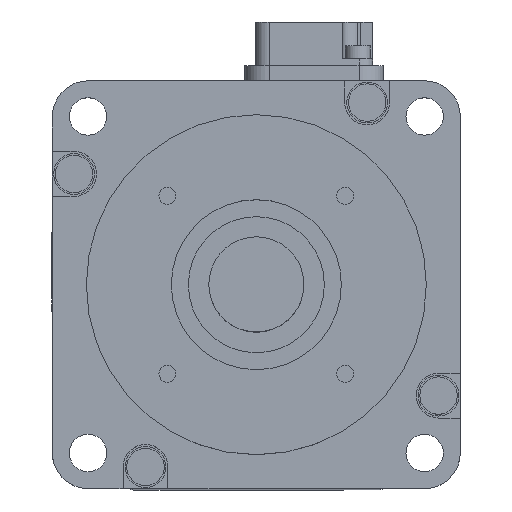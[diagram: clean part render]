
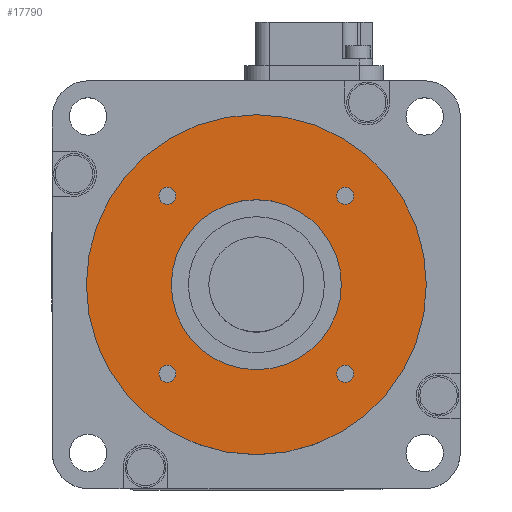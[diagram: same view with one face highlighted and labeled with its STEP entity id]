
A CAD part, top view. The second image highlights one B-rep face of the part: STEP entity #17790.
In plain terms, the highlighted planar face has unit normal (0, 0, 1).
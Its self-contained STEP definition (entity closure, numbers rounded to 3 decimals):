
#4791=CARTESIAN_POINT('',(0.,0.,55.25));
#4792=DIRECTION('',(0.,0.,1.));
#4793=DIRECTION('',(1.,0.,0.));
#4794=AXIS2_PLACEMENT_3D('',#4791,#4792,#4793);
#4796=CARTESIAN_POINT('',(0.,0.,55.25));
#4797=DIRECTION('',(0.,0.,1.));
#4798=DIRECTION('',(-1.,0.,0.));
#4799=AXIS2_PLACEMENT_3D('',#4796,#4797,#4798);
#4801=CARTESIAN_POINT('',(0.,0.,55.25));
#4802=DIRECTION('',(0.,0.,-1.));
#4803=DIRECTION('',(1.,0.,0.));
#4804=AXIS2_PLACEMENT_3D('',#4801,#4802,#4803);
#4806=CARTESIAN_POINT('',(0.,0.,55.25));
#4807=DIRECTION('',(0.,0.,-1.));
#4808=DIRECTION('',(-1.,0.,0.));
#4809=AXIS2_PLACEMENT_3D('',#4806,#4807,#4808);
#4811=CARTESIAN_POINT('',(13.081,13.081,55.25));
#4812=DIRECTION('',(0.,0.,-1.));
#4813=DIRECTION('',(-1.,0.,0.));
#4814=AXIS2_PLACEMENT_3D('',#4811,#4812,#4813);
#4816=CARTESIAN_POINT('',(13.081,13.081,55.25));
#4817=DIRECTION('',(0.,0.,-1.));
#4818=DIRECTION('',(1.,0.,0.));
#4819=AXIS2_PLACEMENT_3D('',#4816,#4817,#4818);
#4821=CARTESIAN_POINT('',(-13.081,13.081,55.25));
#4822=DIRECTION('',(0.,0.,-1.));
#4823=DIRECTION('',(0.,-1.,0.));
#4824=AXIS2_PLACEMENT_3D('',#4821,#4822,#4823);
#4826=CARTESIAN_POINT('',(-13.081,13.081,55.25));
#4827=DIRECTION('',(0.,0.,-1.));
#4828=DIRECTION('',(0.,1.,0.));
#4829=AXIS2_PLACEMENT_3D('',#4826,#4827,#4828);
#4831=CARTESIAN_POINT('',(-13.081,-13.081,55.25));
#4832=DIRECTION('',(0.,0.,-1.));
#4833=DIRECTION('',(1.,0.,0.));
#4834=AXIS2_PLACEMENT_3D('',#4831,#4832,#4833);
#4836=CARTESIAN_POINT('',(-13.081,-13.081,55.25));
#4837=DIRECTION('',(0.,0.,-1.));
#4838=DIRECTION('',(-1.,0.,0.));
#4839=AXIS2_PLACEMENT_3D('',#4836,#4837,#4838);
#4841=CARTESIAN_POINT('',(13.081,-13.081,55.25));
#4842=DIRECTION('',(0.,0.,-1.));
#4843=DIRECTION('',(0.,1.,0.));
#4844=AXIS2_PLACEMENT_3D('',#4841,#4842,#4843);
#4846=CARTESIAN_POINT('',(13.081,-13.081,55.25));
#4847=DIRECTION('',(0.,0.,-1.));
#4848=DIRECTION('',(0.,-1.,0.));
#4849=AXIS2_PLACEMENT_3D('',#4846,#4847,#4848);
#5123=CARTESIAN_POINT('',(-25.,0.,55.25));
#5124=VERTEX_POINT('',#5123);
#5125=CARTESIAN_POINT('',(25.,0.,55.25));
#5126=VERTEX_POINT('',#5125);
#5128=CARTESIAN_POINT('',(12.5,0.,55.25));
#5130=VERTEX_POINT('',#5128);
#5133=CARTESIAN_POINT('',(-12.5,0.,55.25));
#5134=VERTEX_POINT('',#5133);
#5155=CARTESIAN_POINT('',(14.331,13.081,55.25));
#5156=VERTEX_POINT('',#5155);
#5157=CARTESIAN_POINT('',(11.831,13.081,55.25));
#5158=VERTEX_POINT('',#5157);
#5171=CARTESIAN_POINT('',(-13.081,14.331,55.25));
#5172=VERTEX_POINT('',#5171);
#5173=CARTESIAN_POINT('',(-13.081,11.831,55.25));
#5174=VERTEX_POINT('',#5173);
#5175=CARTESIAN_POINT('',(-14.331,-13.081,55.25));
#5176=VERTEX_POINT('',#5175);
#5177=CARTESIAN_POINT('',(-11.831,-13.081,55.25));
#5178=VERTEX_POINT('',#5177);
#5179=CARTESIAN_POINT('',(13.081,-14.331,55.25));
#5180=VERTEX_POINT('',#5179);
#5181=CARTESIAN_POINT('',(13.081,-11.831,55.25));
#5182=VERTEX_POINT('',#5181);
#17750=CARTESIAN_POINT('',(0.,0.,55.25));
#17751=DIRECTION('',(0.,0.,1.));
#17752=DIRECTION('',(-1.,0.,0.));
#17753=AXIS2_PLACEMENT_3D('',#17750,#17751,#17752);
#17754=PLANE('',#17753);
#17755=ORIENTED_EDGE('',*,*,#17728,.F.);
#17757=ORIENTED_EDGE('',*,*,#17756,.F.);
#17758=EDGE_LOOP('',(#17755,#17757));
#17759=FACE_OUTER_BOUND('',#17758,.F.);
#17761=ORIENTED_EDGE('',*,*,#17760,.F.);
#17763=ORIENTED_EDGE('',*,*,#17762,.F.);
#17764=EDGE_LOOP('',(#17761,#17763));
#17765=FACE_BOUND('',#17764,.F.);
#17767=ORIENTED_EDGE('',*,*,#17766,.F.);
#17769=ORIENTED_EDGE('',*,*,#17768,.F.);
#17770=EDGE_LOOP('',(#17767,#17769));
#17771=FACE_BOUND('',#17770,.F.);
#17773=ORIENTED_EDGE('',*,*,#17772,.F.);
#17775=ORIENTED_EDGE('',*,*,#17774,.F.);
#17776=EDGE_LOOP('',(#17773,#17775));
#17777=FACE_BOUND('',#17776,.F.);
#17779=ORIENTED_EDGE('',*,*,#17778,.F.);
#17781=ORIENTED_EDGE('',*,*,#17780,.F.);
#17782=EDGE_LOOP('',(#17779,#17781));
#17783=FACE_BOUND('',#17782,.F.);
#17785=ORIENTED_EDGE('',*,*,#17784,.F.);
#17787=ORIENTED_EDGE('',*,*,#17786,.F.);
#17788=EDGE_LOOP('',(#17785,#17787));
#17789=FACE_BOUND('',#17788,.F.);
#17790=ADVANCED_FACE('',(#17759,#17765,#17771,#17777,#17783,#17789),#17754,.T.);
#4795=CIRCLE('',#4794,25.);
#4800=CIRCLE('',#4799,25.);
#4805=CIRCLE('',#4804,12.5);
#4810=CIRCLE('',#4809,12.5);
#4815=CIRCLE('',#4814,1.25);
#4820=CIRCLE('',#4819,1.25);
#4825=CIRCLE('',#4824,1.25);
#4830=CIRCLE('',#4829,1.25);
#4835=CIRCLE('',#4834,1.25);
#4840=CIRCLE('',#4839,1.25);
#4845=CIRCLE('',#4844,1.25);
#4850=CIRCLE('',#4849,1.25);
#17728=EDGE_CURVE('',#5126,#5124,#4795,.T.);
#17756=EDGE_CURVE('',#5124,#5126,#4800,.T.);
#17760=EDGE_CURVE('',#5130,#5134,#4805,.T.);
#17762=EDGE_CURVE('',#5134,#5130,#4810,.T.);
#17766=EDGE_CURVE('',#5158,#5156,#4815,.T.);
#17768=EDGE_CURVE('',#5156,#5158,#4820,.T.);
#17772=EDGE_CURVE('',#5174,#5172,#4825,.T.);
#17774=EDGE_CURVE('',#5172,#5174,#4830,.T.);
#17778=EDGE_CURVE('',#5178,#5176,#4835,.T.);
#17780=EDGE_CURVE('',#5176,#5178,#4840,.T.);
#17784=EDGE_CURVE('',#5182,#5180,#4845,.T.);
#17786=EDGE_CURVE('',#5180,#5182,#4850,.T.);
